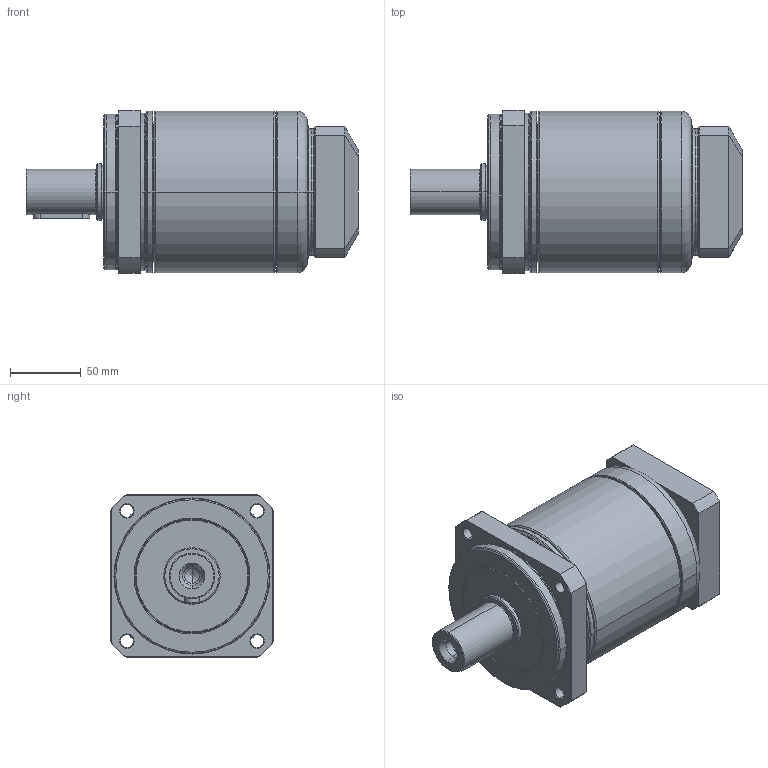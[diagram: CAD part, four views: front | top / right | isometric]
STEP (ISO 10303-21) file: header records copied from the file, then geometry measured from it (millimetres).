
FILE_DESCRIPTION((''),'2;1');
FILE_NAME('PA2-115_2ST_19-P0411400101_ASM','2016-05-11T',('d01943'),(''),'PRO/ENGINEER BY PARAMETRIC TECHNOLOGY CORPORATION, 2008410','PRO/ENGINEER BY PARAMETRIC TECHNOLOGY CORPORATION, 2008410','');
FILE_SCHEMA(('CONFIG_CONTROL_DESIGN'));
Length unit declared in the file: millimetre
Products named in the file (9): P1327410001; P0251400001; P1324400001; P0350400601; P0941400001; P0503400008; P0411400101; P1702500001; PA2-115_2ST_19-P0411400101_ASM
Assembly tree (8 placements, depth 2):
  PA2-115_2ST_19-P0411400101_ASM
    P1327410001
    P0251400001
    P1324400001
    P0350400601
    P0941400001
    P0503400008
    P0411400101
    P1702500001
Bounding box: 234.5 x 115 x 115 mm (x, y, z)
Volume: 1263178.9 mm3; surface area: 230053 mm2
Topology: 8 solids, 8 shells, 475 faces, 1036 edges, 596 vertices
Faces by surface type: cone 146, cylinder 135, torus 92, plane 86, bspline 16
Entity records: 17732 total; most frequent: CARTESIAN_POINT 7060, DIRECTION 2420, ORIENTED_EDGE 2032, AXIS2_PLACEMENT_3D 1033, EDGE_CURVE 1016, VERTEX_POINT 596, CIRCLE 557, EDGE_LOOP 538
